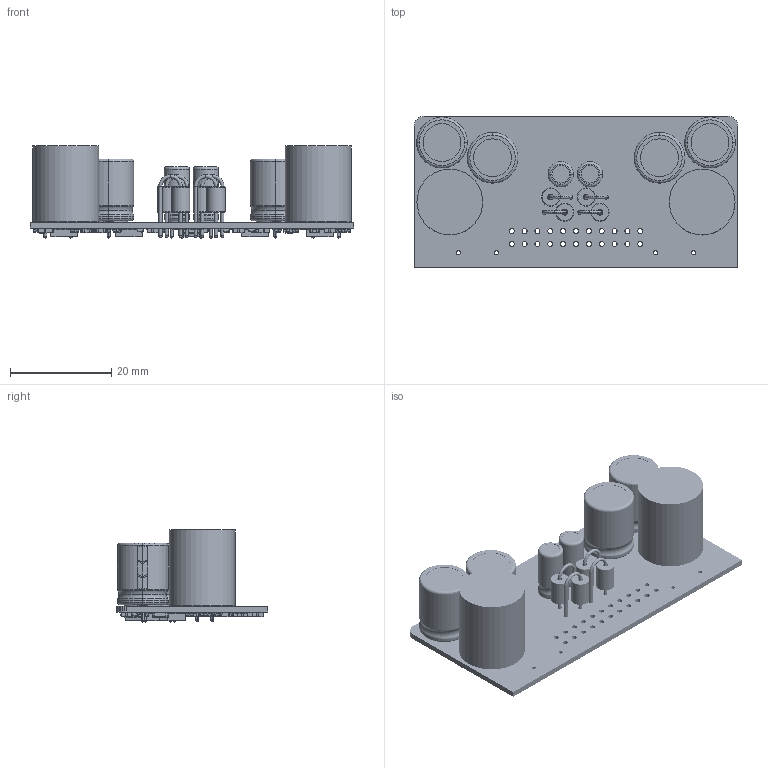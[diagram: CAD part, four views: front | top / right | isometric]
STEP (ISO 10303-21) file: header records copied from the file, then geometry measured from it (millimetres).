
FILE_DESCRIPTION(('Open CASCADE Model'),'2;1');
FILE_NAME('Open CASCADE Shape Model','2011-05-27T09:47:40',('Author'),( 'Open CASCADE'),'Open CASCADE STEP processor 6.2','Open CASCADE 6.2' ,'Unknown');
FILE_SCHEMA(('AUTOMOTIVE_DESIGN { 1 0 10303 214 1 1 1 1 }'));
Length unit declared in the file: millimetre
Products named in the file (198): PCB; Board; U2; SOIC14; U3; 442682176; Extruded; U1; T19; SOT-323; T18; T17; T16; T15; T14; T13; T12; T11; T10; T9; T8; T7; T6; T5; T4; T3; T2; T1; R64; SW3dPS-0603_SMD_Resistor; R63; R62; R61; R60; R59; R58; R57; R56; SW3dPS-0805_SMD_Resistor; R55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
Assembly tree (347 placements, depth 8):
  PCB
    Board
    U2
      SOIC14
    U3
      442682176
        Extruded
    U1
      442682176
        Extruded
    T19
      SOT-323
    T18
      SOT-323
    T17
      SOT-323
    T16
      SOT-323
    T15
      SOT-323
    T14
      SOT-323
    T13
      SOT-323
    T12
      SOT-323
    T11
      SOT-323
    T10
      SOT-323
    T9
      SOT-323
    T8
      SOT-323
    T7
      SOT-323
    T6
      SOT-323
    T5
      442682176
        Extruded
    T4
      SOT-323
    T3
      SOT-323
    T2
      SOT-323
    T1
      442682176
        Extruded
    R64
      SW3dPS-0603_SMD_Resistor
    R63
      SW3dPS-0603_SMD_Resistor
    R62
      SW3dPS-0603_SMD_Resistor
    R61
      SW3dPS-0603_SMD_Resistor
    R60
      SW3dPS-0603_SMD_Resistor
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Bounding box: 64.02 x 30.01 x 18.2 mm (x, y, z)
Volume: 10839 mm3; surface area: 10606.2 mm2
Topology: 451 solids, 451 shells, 12598 faces, 29908 edges, 17958 vertices
Faces by surface type: plane 5144, bspline 3940, cylinder 2536, sphere 856, torus 120, revolution 2
Full cylindrical faces by diameter (mm): 0.7 x4, 0.8 x12, 0.9 x8, 1 x26, 13 x2
Entity records: 77615 total; most frequent: CARTESIAN_POINT 28938, DIRECTION 7058, ORIENTED_EDGE 4336, PCURVE 4336, DEFINITIONAL_REPRESENTATION 4336, LINE 3556, VECTOR 3556, EDGE_CURVE 2168
